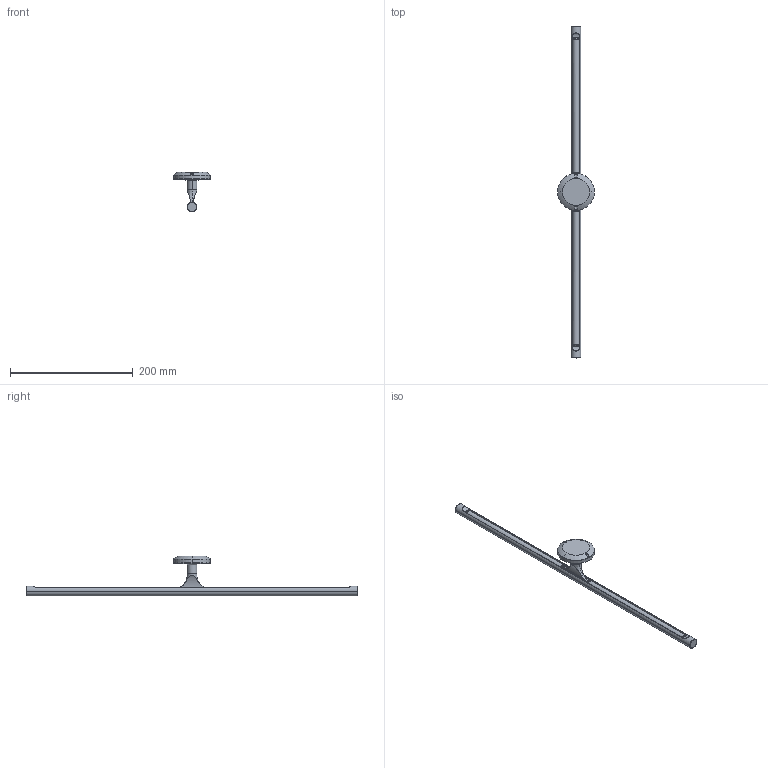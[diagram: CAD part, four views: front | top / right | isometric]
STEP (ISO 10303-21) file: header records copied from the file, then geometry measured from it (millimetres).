
FILE_DESCRIPTION (( 'STEP AP203' ), '1' );
FILE_NAME ('Gallery - 540 Wall Lamp.STEP', '2024-03-25T00:03:48', ( '' ), ( '' ), 'SwSTEP 2.0', 'SolidWorks 2017', '' );
FILE_SCHEMA (( 'CONFIG_CONTROL_DESIGN' ));
Length unit declared in the file: millimetre
Products named in the file (1): Gallery - 540 Wall Lamp
Bounding box: 60 x 540 x 65 mm (x, y, z)
Volume: 127952.3 mm3; surface area: 56932.2 mm2
Topology: 3 solids, 3 shells, 214 faces, 539 edges, 330 vertices
Faces by surface type: plane 84, cylinder 69, bspline 30, torus 23, sphere 6, cone 2
Entity records: 8509 total; most frequent: CARTESIAN_POINT 3546, ORIENTED_EDGE 1062, DIRECTION 974, EDGE_CURVE 531, AXIS2_PLACEMENT_3D 366, VERTEX_POINT 328, LINE 242, VECTOR 242
